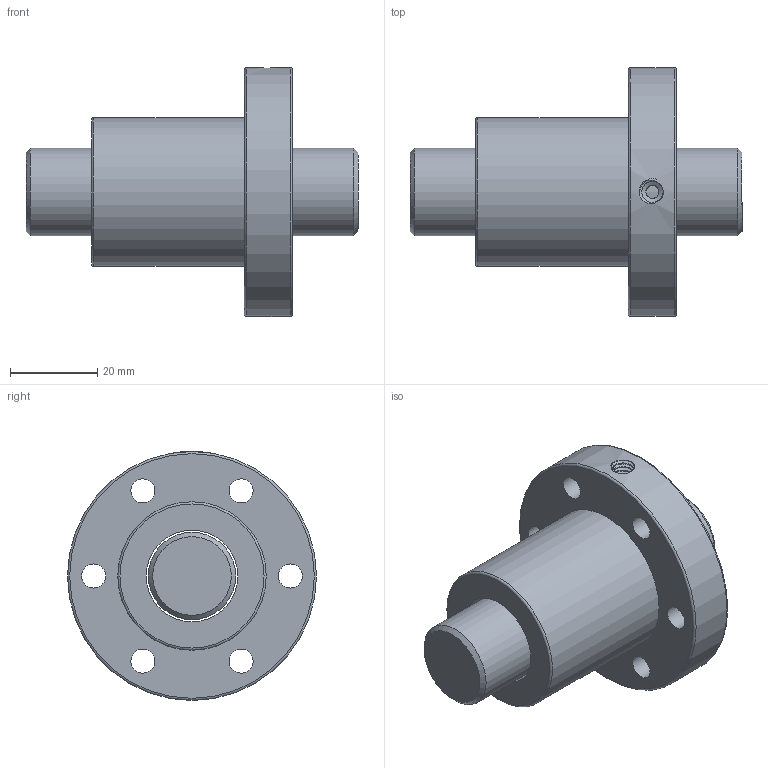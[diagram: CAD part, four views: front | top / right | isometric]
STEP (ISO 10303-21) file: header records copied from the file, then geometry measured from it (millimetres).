
FILE_DESCRIPTION(/* description */ ('Unknown','CAx-IF Rec.Pracs.---Representation and Presentation of Product Manufacturing Information (PMI)---4.0---2014-10-13','CAx-IF Rec.Pracs.---3D Tessellated Geometry---0.4---2014-09-14','2;1'),/* implementation_level */ '2;1');
FILE_NAME(/* name */ 'SFI02004',/* time_stamp */ '2020-12-06T19:06:27+08:00',/* author */ ('Unknown'),/* organization */ ('Unknown'),/* preprocessor_version */ 'ST-DEVELOPER v16.7',/* originating_system */ 'Solid Edge',/* authorisation */ 'Unknown');
FILE_SCHEMA (('AP242_MANAGED_MODEL_BASED_3D_ENGINEERING_MIM_LF { 1 0 10303 442 1 1 4 }'));
Length unit declared in the file: millimetre
Products named in the file (1): SFI02004
Bounding box: 76 x 57 x 57 mm (x, y, z)
Volume: 64334.1 mm3; surface area: 19936.1 mm2
Topology: 2 solids, 2 shells, 39 faces, 83 edges, 55 vertices
Faces by surface type: cylinder 19, plane 12, cone 3, torus 3, bspline 2
Full cylindrical faces by diameter (mm): 3 x1, 5.5 x6, 9.5 x6, 20 x1, 21 x1, 34 x1, 57 x1
Entity records: 3213 total; most frequent: CARTESIAN_POINT 2394, DIRECTION 164, ORIENTED_EDGE 104, EDGE_LOOP 85, FACE_BOUND 85, AXIS2_PLACEMENT_3D 83, EDGE_CURVE 52, VERTEX_POINT 47
